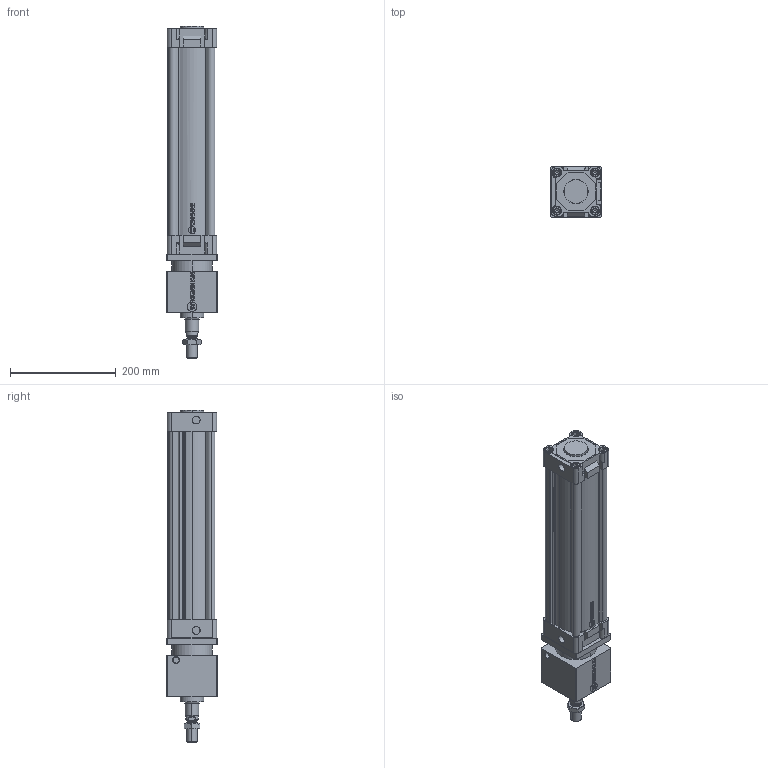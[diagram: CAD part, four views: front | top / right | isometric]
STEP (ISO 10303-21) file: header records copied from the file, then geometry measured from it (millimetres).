
FILE_DESCRIPTION (( 'STEP AP214' ), '1' );
FILE_NAME ('WALCK-080-0300 (MDMY).STEP', '2017-08-02T06:53:03', ( 'Hidtek' ), ( '' ), 'SwSTEP 2.0', 'SolidWorks 2016', '' );
FILE_SCHEMA (( 'AUTOMOTIVE_DESIGN' ));
Length unit declared in the file: millimetre
Products named in the file (5): hex thin nuts grades ab gb_GB_FASTENER_NUT_STNABTT  B M20X1.5-N-1^WALCK-080-0300 (MDMY); Group2^WALCK-080-0300 (MDMY); WI-RDLCK-080 (3DMY)-1^WALCK-080-0300 (MDMY); Group1-1^WALCK-080-0300 (MDMY); WALCK-080-0300 (MDMY)
Assembly tree (4 placements, depth 2):
  WALCK-080-0300 (MDMY)
    Group2^WALCK-080-0300 (MDMY)
    WI-RDLCK-080 (3DMY)-1^WALCK-080-0300 (MDMY)
    Group1-1^WALCK-080-0300 (MDMY)
    hex thin nuts grades ab gb_GB_FASTENER_NUT_STNABTT  B M20X1.5-N-1^WALCK-080-0300 (MDMY)
Bounding box: 95 x 95 x 628 mm (x, y, z)
Volume: 2545803.8 mm3; surface area: 491646.5 mm2
Topology: 14 solids, 14 shells, 692 faces, 1729 edges, 1122 vertices
Faces by surface type: plane 441, cylinder 168, cone 77, torus 6
Entity records: 22820 total; most frequent: CARTESIAN_POINT 4122, ORIENTED_EDGE 3458, DIRECTION 3452, EDGE_CURVE 1729, VECTOR 1200, LINE 1200, AXIS2_PLACEMENT_3D 1126, VERTEX_POINT 1122
